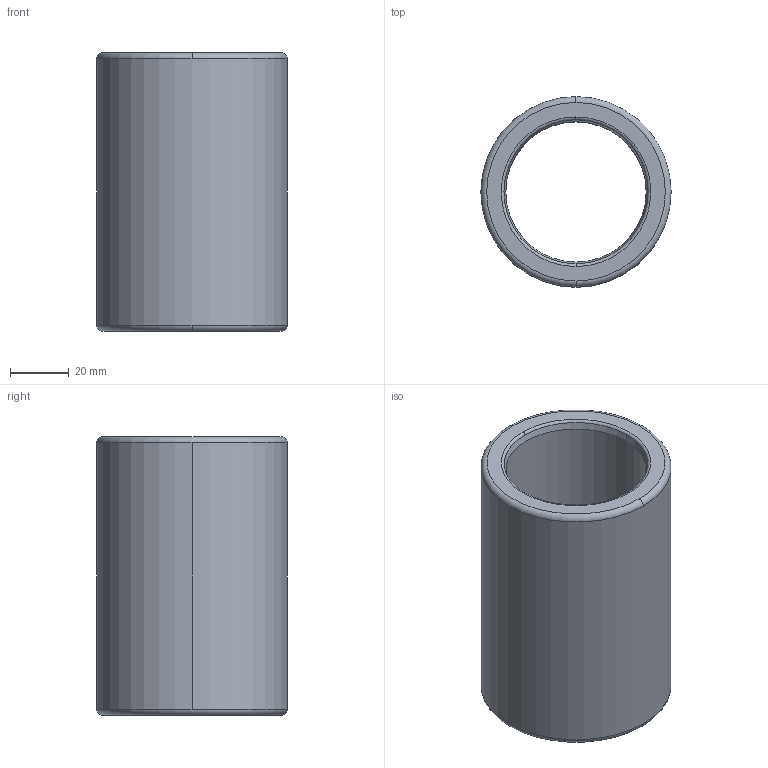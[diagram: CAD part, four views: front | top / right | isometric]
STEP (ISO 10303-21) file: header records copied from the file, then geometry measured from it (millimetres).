
FILE_DESCRIPTION((''),'2;1');
FILE_NAME('B30_040_095.stp','2009-01-12T10:49:50',(''),(''),'Mechanical Desktop 2009','Mechanical Desktop 2009',', , ');
FILE_SCHEMA(('CONFIG_CONTROL_DESIGN'));
Length unit declared in the file: millimetre
Products named in the file (2): Product; blmdl1
Assembly tree (1 placements, depth 2):
  Product
    blmdl1
Bounding box: 64.99 x 64.99 x 95 mm (x, y, z)
Volume: 142729.7 mm3; surface area: 36105.5 mm2
Topology: 1 solids, 1 shells, 18 faces, 48 edges, 32 vertices
Faces by surface type: torus 8, cylinder 4, cone 4, plane 2
Entity records: 705 total; most frequent: DIRECTION 128, CARTESIAN_POINT 100, ORIENTED_EDGE 96, AXIS2_PLACEMENT_3D 60, EDGE_CURVE 48, CIRCLE 40, VERTEX_POINT 32, EDGE_LOOP 20
